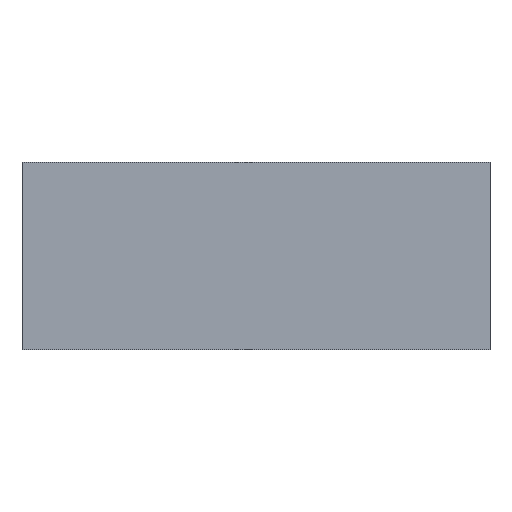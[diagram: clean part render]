
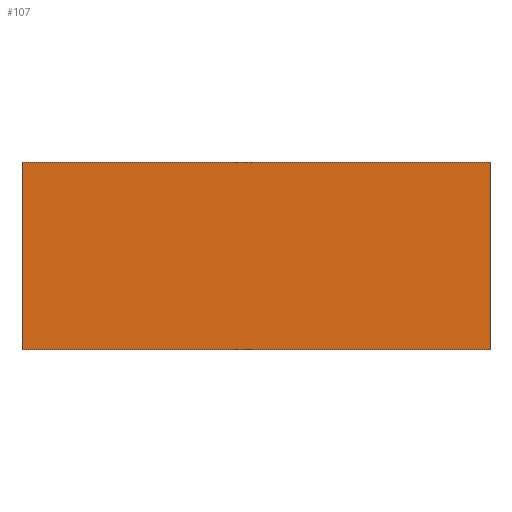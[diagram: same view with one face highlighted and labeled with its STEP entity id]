
A CAD part, front view. The second image highlights one B-rep face of the part: STEP entity #107.
In plain terms, the highlighted planar face has unit normal (0, -1, 0).
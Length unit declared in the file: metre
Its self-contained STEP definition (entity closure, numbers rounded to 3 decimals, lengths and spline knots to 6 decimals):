
#24=ORIENTED_EDGE('',*,*,#41,.T.);
#25=ORIENTED_EDGE('',*,*,#45,.T.);
#26=ORIENTED_EDGE('',*,*,#38,.F.);
#27=ORIENTED_EDGE('',*,*,#46,.F.);
#38=EDGE_CURVE('',#50,#51,#58,.T.);
#41=EDGE_CURVE('',#54,#52,#61,.T.);
#45=EDGE_CURVE('',#52,#51,#65,.T.);
#46=EDGE_CURVE('',#54,#50,#66,.T.);
#50=VERTEX_POINT('',#198);
#51=VERTEX_POINT('',#200);
#52=VERTEX_POINT('',#204);
#54=VERTEX_POINT('',#207);
#58=LINE('',#199,#70);
#61=LINE('',#206,#73);
#65=LINE('',#213,#77);
#66=LINE('',#215,#78);
#70=VECTOR('',#172,1.);
#73=VECTOR('',#177,1.);
#77=VECTOR('',#183,1.);
#78=VECTOR('',#186,1.);
#83=EDGE_LOOP('',(#24,#25,#26,#27));
#89=FACE_BOUND('',#83,.T.);
#95=PLANE('',#163);
#107=ADVANCED_FACE('',(#89),#95,.T.);
#163=AXIS2_PLACEMENT_3D('',#214,#184,#185);
#172=DIRECTION('',(-1.,0.,0.));
#177=DIRECTION('',(-1.,0.,0.));
#183=DIRECTION('',(0.,0.,-1.));
#184=DIRECTION('',(0.,-1.,0.));
#185=DIRECTION('',(1.,0.,0.));
#186=DIRECTION('',(0.,0.,-1.));
#198=CARTESIAN_POINT('',(0.166055,-0.127975,0.002875));
#199=CARTESIAN_POINT('',(0.166055,-0.127975,0.002875));
#200=CARTESIAN_POINT('',(0.165805,-0.127975,0.002875));
#204=CARTESIAN_POINT('',(0.165805,-0.127975,0.002975));
#206=CARTESIAN_POINT('',(0.166055,-0.127975,0.002975));
#207=CARTESIAN_POINT('',(0.166055,-0.127975,0.002975));
#213=CARTESIAN_POINT('',(0.165805,-0.127975,0.002975));
#214=CARTESIAN_POINT('',(0.166055,-0.127975,0.002975));
#215=CARTESIAN_POINT('',(0.166055,-0.127975,0.002975));
